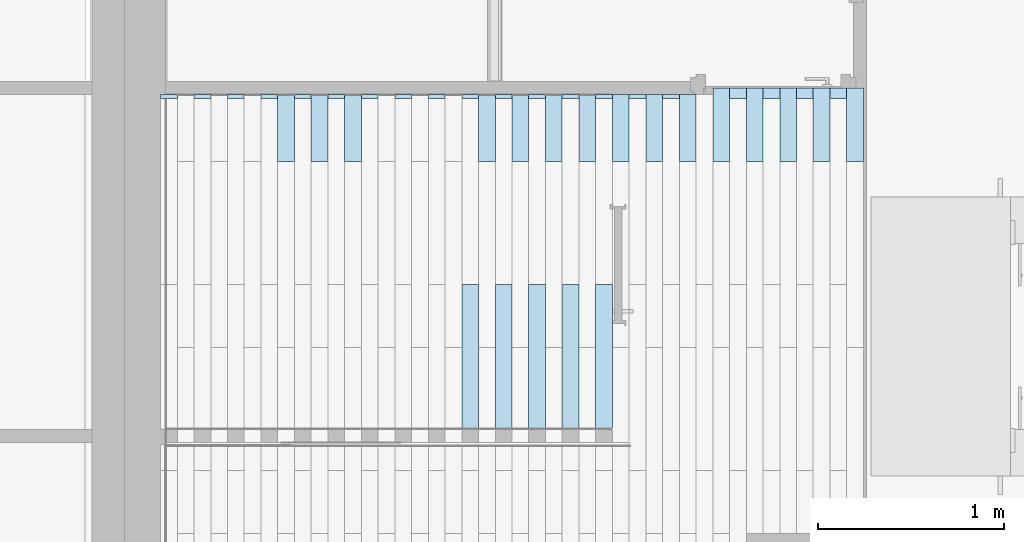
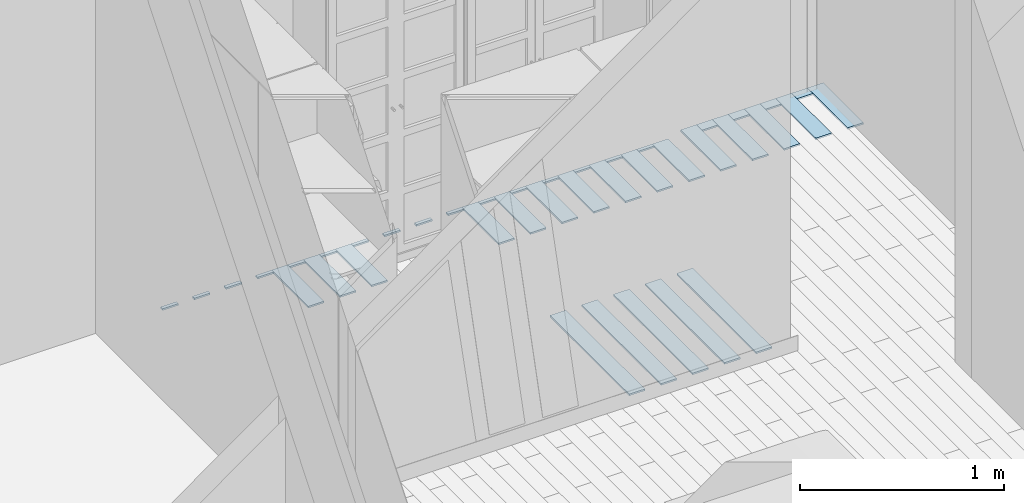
# One storey, part 7 of 61: 40 slabs.
"""IFC2X3 building model written with IfcOpenShell, lengths in metres."""

from ifc_helpers import new_model, entity, si_unit, converted_unit, derived_unit, direction, frame, frame_2d, origin, place, context, subcontext, project, spatial, rectangle, extrude, material, layer, layer_set, layer_usage, type_object, element, save


model = new_model("IFC2X3")

# Units and contexts
model_context = context("Model", 3, precision=1e-05, world=origin(), true_north=direction((6.12303176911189e-17, 1.0)))
body_context = subcontext(model_context, "Body", "Model", "MODEL_VIEW")
ifc_project = project(units=[si_unit("LENGTHUNIT", "METRE"), si_unit("AREAUNIT", "SQUARE_METRE"), si_unit("VOLUMEUNIT", "CUBIC_METRE"), converted_unit("PLANEANGLEUNIT", "DEGREE", entity("IfcRatioMeasure", 0.0174532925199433), si_unit("PLANEANGLEUNIT", "RADIAN"), dimensions=[0, 0, 0, 0, 0, 0, 0]), si_unit("MASSUNIT", "GRAM", prefix="KILO"), derived_unit("MASSDENSITYUNIT", [(si_unit("MASSUNIT", "GRAM", prefix="KILO"), 1), (si_unit("LENGTHUNIT", "METRE"), -3)]), si_unit("TIMEUNIT", "SECOND"), si_unit("FREQUENCYUNIT", "HERTZ"), si_unit("THERMODYNAMICTEMPERATUREUNIT", "DEGREE_CELSIUS"), derived_unit("THERMALTRANSMITTANCEUNIT", [(si_unit("MASSUNIT", "GRAM", prefix="KILO"), 1), (si_unit("THERMODYNAMICTEMPERATUREUNIT", "KELVIN"), -1), (si_unit("TIMEUNIT", "SECOND"), -3)]), derived_unit("VOLUMETRICFLOWRATEUNIT", [(si_unit("LENGTHUNIT", "METRE"), 3), (si_unit("TIMEUNIT", "SECOND"), -1)]), si_unit("ELECTRICCURRENTUNIT", "AMPERE"), si_unit("ELECTRICVOLTAGEUNIT", "VOLT"), si_unit("POWERUNIT", "WATT"), si_unit("FORCEUNIT", "NEWTON", prefix="KILO"), si_unit("ILLUMINANCEUNIT", "LUX"), si_unit("LUMINOUSFLUXUNIT", "LUMEN"), si_unit("LUMINOUSINTENSITYUNIT", "CANDELA"), derived_unit("USERDEFINED", [(si_unit("MASSUNIT", "GRAM", prefix="KILO"), -1), (si_unit("LENGTHUNIT", "METRE"), -2), (si_unit("TIMEUNIT", "SECOND"), 3), (si_unit("LUMINOUSFLUXUNIT", "LUMEN"), 1)]), derived_unit("LINEARVELOCITYUNIT", [(si_unit("LENGTHUNIT", "METRE"), 1), (si_unit("TIMEUNIT", "SECOND"), -1)]), si_unit("PRESSUREUNIT", "PASCAL"), derived_unit("USERDEFINED", [(si_unit("LENGTHUNIT", "METRE"), -2), (si_unit("MASSUNIT", "GRAM", prefix="KILO"), 1), (si_unit("TIMEUNIT", "SECOND"), -2)])], contexts=[model_context])

# Site, building, storey
site_placement = place(None, origin())
site = spatial("IfcSite", under=ifc_project, at=site_placement, Name="Surface", CompositionType="ELEMENT")
building_placement = place(site_placement, origin())
building = spatial("IfcBuilding", under=site, at=building_placement, CompositionType="ELEMENT")
storey_placement = place(building_placement, frame((0.0, 0.0, 2.82)))
storey = spatial("IfcBuildingStorey", under=building, at=storey_placement, Name="ETAGE", CompositionType="ELEMENT", Elevation=2.82)

# Slabs
ifc_material = material(Name="PARQUET BAMBOU")
ifc_layer = layer(ifc_material, 0.01)
ifc_layer_set = layer_set([ifc_layer], Name="Sol:LAME DE BAMBOU")
ifc_layer_usage_1 = layer_usage(ifc_layer_set, "AXIS3", "POSITIVE", 0.0)
slab_type_1 = type_object("IfcSlabType", Name="Sol:LAME DE BAMBOU", PredefinedType="FLOOR", material=ifc_layer_set)
slab_1_placement = place(storey_placement, origin())
element("IfcSlab", 1, at=slab_1_placement, inside=storey, type_object=slab_type_1, material=ifc_layer_usage_1, Name="Sol:LAME DE BAMBOU", ObjectType="Sol:LAME DE BAMBOU", PredefinedType="FLOOR", context=body_context, shape_type="SweptSolid", body=[
    extrude(rectangle(XDim=0.0200000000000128, YDim=0.0899999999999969, at=frame_2d((-8.66320903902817e-15, 8.66320903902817e-15), x_axis=(1.0, 0.0))), frame((86.466089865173, 86.5975239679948, 0.05), z_axis=(0.0, 0.0, -1.0), x_axis=(0.0, 1.0, 0.0)), (0.0, 0.0, 1.0), 0.00999999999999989),
])
ifc_layer_usage_2 = layer_usage(ifc_layer_set, "AXIS3", "POSITIVE", 0.0)
slab_type_2 = type_object("IfcSlabType", Name="Sol:LAME DE BAMBOU", PredefinedType="FLOOR", material=ifc_layer_set)
slab_2_placement = place(storey_placement, origin())
element("IfcSlab", 2, at=slab_2_placement, inside=storey, type_object=slab_type_2, material=ifc_layer_usage_2, Name="Sol:LAME DE BAMBOU", ObjectType="Sol:LAME DE BAMBOU", PredefinedType="FLOOR", context=body_context, shape_type="SweptSolid", body=[
    extrude(rectangle(XDim=0.360000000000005, YDim=0.0899999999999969, at=frame_2d((-8.67361737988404e-15, 8.66320903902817e-15), x_axis=(1.0, 0.0))), frame((86.556089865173, 86.4275239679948, 0.05), z_axis=(0.0, 0.0, -1.0), x_axis=(0.0, 1.0, 0.0)), (0.0, 0.0, 1.0), 0.00999999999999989),
])
ifc_layer_usage_3 = layer_usage(ifc_layer_set, "AXIS3", "POSITIVE", 0.0)
slab_type_3 = type_object("IfcSlabType", Name="Sol:LAME DE BAMBOU", PredefinedType="FLOOR", material=ifc_layer_set)
slab_3_placement = place(storey_placement, origin())
element("IfcSlab", 3, at=slab_3_placement, inside=storey, type_object=slab_type_3, material=ifc_layer_usage_3, Name="Sol:LAME DE BAMBOU", ObjectType="Sol:LAME DE BAMBOU", PredefinedType="FLOOR", context=body_context, shape_type="SweptSolid", body=[
    extrude(rectangle(XDim=0.394999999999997, YDim=0.0899999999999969, at=frame_2d((0.0, 8.66320903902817e-15), x_axis=(1.0, 0.0))), frame((86.916089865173, 86.4450239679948, 0.05), z_axis=(0.0, 0.0, -1.0), x_axis=(0.0, 1.0, 0.0)), (0.0, 0.0, 1.0), 0.00999999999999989),
])
ifc_layer_usage_4 = layer_usage(ifc_layer_set, "AXIS3", "POSITIVE", 0.0)
slab_type_4 = type_object("IfcSlabType", Name="Sol:LAME DE BAMBOU", PredefinedType="FLOOR", material=ifc_layer_set)
slab_4_placement = place(storey_placement, origin())
element("IfcSlab", 4, at=slab_4_placement, inside=storey, type_object=slab_type_4, material=ifc_layer_usage_4, Name="Sol:LAME DE BAMBOU", ObjectType="Sol:LAME DE BAMBOU", PredefinedType="FLOOR", context=body_context, shape_type="SweptSolid", body=[
    extrude(rectangle(XDim=0.360000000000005, YDim=0.0899999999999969, at=frame_2d((-8.67361737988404e-15, -8.66320903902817e-15), x_axis=(1.0, 0.0))), frame((86.736089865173, 86.4275239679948, 0.05), z_axis=(0.0, 0.0, -1.0), x_axis=(0.0, 1.0, 0.0)), (0.0, 0.0, 1.0), 0.00999999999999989),
])
ifc_layer_usage_5 = layer_usage(ifc_layer_set, "AXIS3", "POSITIVE", 0.0)
slab_type_5 = type_object("IfcSlabType", Name="Sol:LAME DE BAMBOU", PredefinedType="FLOOR", material=ifc_layer_set)
slab_5_placement = place(storey_placement, origin())
element("IfcSlab", 5, at=slab_5_placement, inside=storey, type_object=slab_type_5, material=ifc_layer_usage_5, Name="Sol:LAME DE BAMBOU", ObjectType="Sol:LAME DE BAMBOU", PredefinedType="FLOOR", context=body_context, shape_type="SweptSolid", body=[
    extrude(rectangle(XDim=0.0200000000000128, YDim=0.0899999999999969, at=frame_2d((-8.66320903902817e-15, 8.66320903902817e-15), x_axis=(1.0, 0.0))), frame((86.646089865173, 86.5975239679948, 0.05), z_axis=(0.0, 0.0, -1.0), x_axis=(0.0, 1.0, 0.0)), (0.0, 0.0, 1.0), 0.00999999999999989),
])
ifc_layer_usage_6 = layer_usage(ifc_layer_set, "AXIS3", "POSITIVE", 0.0)
slab_type_6 = type_object("IfcSlabType", Name="Sol:LAME DE BAMBOU", PredefinedType="FLOOR", material=ifc_layer_set)
slab_6_placement = place(storey_placement, origin())
element("IfcSlab", 6, at=slab_6_placement, inside=storey, type_object=slab_type_6, material=ifc_layer_usage_6, Name="Sol:LAME DE BAMBOU", ObjectType="Sol:LAME DE BAMBOU", PredefinedType="FLOOR", context=body_context, shape_type="SweptSolid", body=[
    extrude(rectangle(XDim=0.0550000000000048, YDim=0.0899999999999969, at=frame_2d((0.0, 8.66320903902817e-15), x_axis=(1.0, 0.0))), frame((87.006089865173, 86.6150239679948, 0.05), z_axis=(0.0, 0.0, -1.0), x_axis=(0.0, 1.0, 0.0)), (0.0, 0.0, 1.0), 0.00999999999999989),
])
ifc_layer_usage_7 = layer_usage(ifc_layer_set, "AXIS3", "POSITIVE", 0.0)
slab_type_7 = type_object("IfcSlabType", Name="Sol:LAME DE BAMBOU", PredefinedType="FLOOR", material=ifc_layer_set)
slab_7_placement = place(storey_placement, origin())
element("IfcSlab", 7, at=slab_7_placement, inside=storey, type_object=slab_type_7, material=ifc_layer_usage_7, Name="Sol:LAME DE BAMBOU", ObjectType="Sol:LAME DE BAMBOU", PredefinedType="FLOOR", context=body_context, shape_type="SweptSolid", body=[
    extrude(rectangle(XDim=0.394999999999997, YDim=0.0899999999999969, at=frame_2d((0.0, 8.66320903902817e-15), x_axis=(1.0, 0.0))), frame((87.0961607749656, 86.4450239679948, 0.05), z_axis=(0.0, 0.0, -1.0), x_axis=(0.0, 1.0, 0.0)), (0.0, 0.0, 1.0), 0.00999999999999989),
])
ifc_layer_usage_8 = layer_usage(ifc_layer_set, "AXIS3", "POSITIVE", 0.0)
slab_type_8 = type_object("IfcSlabType", Name="Sol:LAME DE BAMBOU", PredefinedType="FLOOR", material=ifc_layer_set)
slab_8_placement = place(storey_placement, origin())
element("IfcSlab", 8, at=slab_8_placement, inside=storey, type_object=slab_type_8, material=ifc_layer_usage_8, Name="Sol:LAME DE BAMBOU", ObjectType="Sol:LAME DE BAMBOU", PredefinedType="FLOOR", context=body_context, shape_type="SweptSolid", body=[
    extrude(rectangle(XDim=0.0550000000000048, YDim=0.0899999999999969, at=frame_2d((0.0, 8.66320903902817e-15), x_axis=(1.0, 0.0))), frame((87.1861607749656, 86.6150239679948, 0.05), z_axis=(0.0, 0.0, -1.0), x_axis=(0.0, 1.0, 0.0)), (0.0, 0.0, 1.0), 0.00999999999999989),
])
ifc_layer_usage_9 = layer_usage(ifc_layer_set, "AXIS3", "POSITIVE", 0.0)
slab_type_9 = type_object("IfcSlabType", Name="Sol:LAME DE BAMBOU", PredefinedType="FLOOR", material=ifc_layer_set)
slab_9_placement = place(storey_placement, origin())
element("IfcSlab", 9, at=slab_9_placement, inside=storey, type_object=slab_type_9, material=ifc_layer_usage_9, Name="Sol:LAME DE BAMBOU", ObjectType="Sol:LAME DE BAMBOU", PredefinedType="FLOOR", context=body_context, shape_type="SweptSolid", body=[
    extrude(rectangle(XDim=0.394999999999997, YDim=0.0899999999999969, at=frame_2d((0.0, 8.66320903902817e-15), x_axis=(1.0, 0.0))), frame((87.2761607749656, 86.4450239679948, 0.05), z_axis=(0.0, 0.0, -1.0), x_axis=(0.0, 1.0, 0.0)), (0.0, 0.0, 1.0), 0.00999999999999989),
])
ifc_layer_usage_10 = layer_usage(ifc_layer_set, "AXIS3", "POSITIVE", 0.0)
slab_type_10 = type_object("IfcSlabType", Name="Sol:LAME DE BAMBOU", PredefinedType="FLOOR", material=ifc_layer_set)
slab_10_placement = place(storey_placement, origin())
element("IfcSlab", 10, at=slab_10_placement, inside=storey, type_object=slab_type_10, material=ifc_layer_usage_10, Name="Sol:LAME DE BAMBOU", ObjectType="Sol:LAME DE BAMBOU", PredefinedType="FLOOR", context=body_context, shape_type="SweptSolid", body=[
    extrude(rectangle(XDim=0.0550000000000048, YDim=0.0899999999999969, at=frame_2d((0.0, -8.66320903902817e-15), x_axis=(1.0, 0.0))), frame((87.3661607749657, 86.6150239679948, 0.05), z_axis=(0.0, 0.0, -1.0), x_axis=(0.0, 1.0, 0.0)), (0.0, 0.0, 1.0), 0.00999999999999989),
])
ifc_layer_usage_11 = layer_usage(ifc_layer_set, "AXIS3", "POSITIVE", 0.0)
slab_type_11 = type_object("IfcSlabType", Name="Sol:LAME DE BAMBOU", PredefinedType="FLOOR", material=ifc_layer_set)
slab_11_placement = place(storey_placement, origin())
element("IfcSlab", 11, at=slab_11_placement, inside=storey, type_object=slab_type_11, material=ifc_layer_usage_11, Name="Sol:LAME DE BAMBOU", ObjectType="Sol:LAME DE BAMBOU", PredefinedType="FLOOR", context=body_context, shape_type="SweptSolid", body=[
    extrude(rectangle(XDim=0.394999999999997, YDim=0.0899999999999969, at=frame_2d((0.0, 8.66320903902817e-15), x_axis=(1.0, 0.0))), frame((87.4561607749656, 86.4450239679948, 0.05), z_axis=(0.0, 0.0, -1.0), x_axis=(0.0, 1.0, 0.0)), (0.0, 0.0, 1.0), 0.00999999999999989),
])
ifc_layer_usage_12 = layer_usage(ifc_layer_set, "AXIS3", "POSITIVE", 0.0)
slab_type_12 = type_object("IfcSlabType", Name="Sol:LAME DE BAMBOU", PredefinedType="FLOOR", material=ifc_layer_set)
slab_12_placement = place(storey_placement, origin())
element("IfcSlab", 12, at=slab_12_placement, inside=storey, type_object=slab_type_12, material=ifc_layer_usage_12, Name="Sol:LAME DE BAMBOU", ObjectType="Sol:LAME DE BAMBOU", PredefinedType="FLOOR", context=body_context, shape_type="SweptSolid", body=[
    extrude(rectangle(XDim=0.0550000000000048, YDim=0.0899999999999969, at=frame_2d((0.0, 8.66320903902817e-15), x_axis=(1.0, 0.0))), frame((87.5461607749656, 86.6150239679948, 0.05), z_axis=(0.0, 0.0, -1.0), x_axis=(0.0, 1.0, 0.0)), (0.0, 0.0, 1.0), 0.00999999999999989),
])
ifc_layer_usage_13 = layer_usage(ifc_layer_set, "AXIS3", "POSITIVE", 0.0)
slab_type_13 = type_object("IfcSlabType", Name="Sol:LAME DE BAMBOU", PredefinedType="FLOOR", material=ifc_layer_set)
slab_13_placement = place(storey_placement, origin())
element("IfcSlab", 13, at=slab_13_placement, inside=storey, type_object=slab_type_13, material=ifc_layer_usage_13, Name="Sol:LAME DE BAMBOU", ObjectType="Sol:LAME DE BAMBOU", PredefinedType="FLOOR", context=body_context, shape_type="SweptSolid", body=[
    extrude(rectangle(XDim=0.394999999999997, YDim=0.0899999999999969, at=frame_2d((0.0, 8.66320903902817e-15), x_axis=(1.0, 0.0))), frame((87.6361607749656, 86.4450239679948, 0.05), z_axis=(0.0, 0.0, -1.0), x_axis=(0.0, 1.0, 0.0)), (0.0, 0.0, 1.0), 0.00999999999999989),
])
ifc_layer_usage_14 = layer_usage(ifc_layer_set, "AXIS3", "POSITIVE", 0.0)
slab_type_14 = type_object("IfcSlabType", Name="Sol:LAME DE BAMBOU", PredefinedType="FLOOR", material=ifc_layer_set)
slab_14_placement = place(storey_placement, origin())
element("IfcSlab", 14, at=slab_14_placement, inside=storey, type_object=slab_type_14, material=ifc_layer_usage_14, Name="Sol:LAME DE BAMBOU", ObjectType="Sol:LAME DE BAMBOU", PredefinedType="FLOOR", context=body_context, shape_type="SweptSolid", body=[
    extrude(rectangle(XDim=0.360000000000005, YDim=0.0899999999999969, at=frame_2d((-8.67361737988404e-15, -8.66320903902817e-15), x_axis=(1.0, 0.0))), frame((86.376089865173, 86.4275239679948, 0.05), z_axis=(0.0, 0.0, -1.0), x_axis=(0.0, 1.0, 0.0)), (0.0, 0.0, 1.0), 0.00999999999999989),
])
ifc_layer_usage_15 = layer_usage(ifc_layer_set, "AXIS3", "POSITIVE", 0.0)
slab_type_15 = type_object("IfcSlabType", Name="Sol:LAME DE BAMBOU", PredefinedType="FLOOR", material=ifc_layer_set)
slab_15_placement = place(storey_placement, origin())
element("IfcSlab", 15, at=slab_15_placement, inside=storey, type_object=slab_type_15, material=ifc_layer_usage_15, Name="Sol:LAME DE BAMBOU", ObjectType="Sol:LAME DE BAMBOU", PredefinedType="FLOOR", context=body_context, shape_type="SweptSolid", body=[
    extrude(rectangle(XDim=0.779999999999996, YDim=0.0899999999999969, at=frame_2d((0.0, 8.66320903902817e-15), x_axis=(1.0, 0.0))), frame((86.286089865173, 85.1975239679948, 0.05), z_axis=(0.0, 0.0, -1.0), x_axis=(0.0, 1.0, 0.0)), (0.0, 0.0, 1.0), 0.00999999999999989),
])
ifc_layer_usage_16 = layer_usage(ifc_layer_set, "AXIS3", "POSITIVE", 0.0)
slab_type_16 = type_object("IfcSlabType", Name="Sol:LAME DE BAMBOU", PredefinedType="FLOOR", material=ifc_layer_set)
slab_16_placement = place(storey_placement, origin())
element("IfcSlab", 16, at=slab_16_placement, inside=storey, type_object=slab_type_16, material=ifc_layer_usage_16, Name="Sol:LAME DE BAMBOU", ObjectType="Sol:LAME DE BAMBOU", PredefinedType="FLOOR", context=body_context, shape_type="SweptSolid", body=[
    extrude(rectangle(XDim=0.0200000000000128, YDim=0.0899999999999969, at=frame_2d((-8.66320903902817e-15, 8.66320903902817e-15), x_axis=(1.0, 0.0))), frame((86.286089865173, 86.5975239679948, 0.05), z_axis=(0.0, 0.0, -1.0), x_axis=(0.0, 1.0, 0.0)), (0.0, 0.0, 1.0), 0.00999999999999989),
])
ifc_layer_usage_17 = layer_usage(ifc_layer_set, "AXIS3", "POSITIVE", 0.0)
slab_type_17 = type_object("IfcSlabType", Name="Sol:LAME DE BAMBOU", PredefinedType="FLOOR", material=ifc_layer_set)
slab_17_placement = place(storey_placement, origin())
element("IfcSlab", 17, at=slab_17_placement, inside=storey, type_object=slab_type_17, material=ifc_layer_usage_17, Name="Sol:LAME DE BAMBOU", ObjectType="Sol:LAME DE BAMBOU", PredefinedType="FLOOR", context=body_context, shape_type="SweptSolid", body=[
    extrude(rectangle(XDim=0.360000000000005, YDim=0.0899999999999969, at=frame_2d((-8.67361737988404e-15, 8.66320903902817e-15), x_axis=(1.0, 0.0))), frame((86.1960898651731, 86.4275239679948, 0.05), z_axis=(0.0, 0.0, -1.0), x_axis=(0.0, 1.0, 0.0)), (0.0, 0.0, 1.0), 0.00999999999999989),
])
ifc_layer_usage_18 = layer_usage(ifc_layer_set, "AXIS3", "POSITIVE", 0.0)
slab_type_18 = type_object("IfcSlabType", Name="Sol:LAME DE BAMBOU", PredefinedType="FLOOR", material=ifc_layer_set)
slab_18_placement = place(storey_placement, origin())
element("IfcSlab", 18, at=slab_18_placement, inside=storey, type_object=slab_type_18, material=ifc_layer_usage_18, Name="Sol:LAME DE BAMBOU", ObjectType="Sol:LAME DE BAMBOU", PredefinedType="FLOOR", context=body_context, shape_type="SweptSolid", body=[
    extrude(rectangle(XDim=0.779999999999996, YDim=0.0899999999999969, at=frame_2d((0.0, 8.66320903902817e-15), x_axis=(1.0, 0.0))), frame((86.106089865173, 85.1975239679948, 0.05), z_axis=(0.0, 0.0, -1.0), x_axis=(0.0, 1.0, 0.0)), (0.0, 0.0, 1.0), 0.00999999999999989),
])
ifc_layer_usage_19 = layer_usage(ifc_layer_set, "AXIS3", "POSITIVE", 0.0)
slab_type_19 = type_object("IfcSlabType", Name="Sol:LAME DE BAMBOU", PredefinedType="FLOOR", material=ifc_layer_set)
slab_19_placement = place(storey_placement, origin())
element("IfcSlab", 19, at=slab_19_placement, inside=storey, type_object=slab_type_19, material=ifc_layer_usage_19, Name="Sol:LAME DE BAMBOU", ObjectType="Sol:LAME DE BAMBOU", PredefinedType="FLOOR", context=body_context, shape_type="SweptSolid", body=[
    extrude(rectangle(XDim=0.0200000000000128, YDim=0.0899999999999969, at=frame_2d((-8.66320903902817e-15, 8.66320903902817e-15), x_axis=(1.0, 0.0))), frame((86.106089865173, 86.5975239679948, 0.05), z_axis=(0.0, 0.0, -1.0), x_axis=(0.0, 1.0, 0.0)), (0.0, 0.0, 1.0), 0.00999999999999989),
])
ifc_layer_usage_20 = layer_usage(ifc_layer_set, "AXIS3", "POSITIVE", 0.0)
slab_type_20 = type_object("IfcSlabType", Name="Sol:LAME DE BAMBOU", PredefinedType="FLOOR", material=ifc_layer_set)
slab_20_placement = place(storey_placement, origin())
element("IfcSlab", 20, at=slab_20_placement, inside=storey, type_object=slab_type_20, material=ifc_layer_usage_20, Name="Sol:LAME DE BAMBOU", ObjectType="Sol:LAME DE BAMBOU", PredefinedType="FLOOR", context=body_context, shape_type="SweptSolid", body=[
    extrude(rectangle(XDim=0.360000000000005, YDim=0.0899999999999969, at=frame_2d((-8.67361737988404e-15, 8.66320903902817e-15), x_axis=(1.0, 0.0))), frame((86.0160898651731, 86.4275239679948, 0.05), z_axis=(0.0, 0.0, -1.0), x_axis=(0.0, 1.0, 0.0)), (0.0, 0.0, 1.0), 0.00999999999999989),
])
ifc_layer_usage_21 = layer_usage(ifc_layer_set, "AXIS3", "POSITIVE", 0.0)
slab_type_21 = type_object("IfcSlabType", Name="Sol:LAME DE BAMBOU", PredefinedType="FLOOR", material=ifc_layer_set)
slab_21_placement = place(storey_placement, origin())
element("IfcSlab", 21, at=slab_21_placement, inside=storey, type_object=slab_type_21, material=ifc_layer_usage_21, Name="Sol:LAME DE BAMBOU", ObjectType="Sol:LAME DE BAMBOU", PredefinedType="FLOOR", context=body_context, shape_type="SweptSolid", body=[
    extrude(rectangle(XDim=0.779999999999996, YDim=0.0899999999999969, at=frame_2d((0.0, 8.66320903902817e-15), x_axis=(1.0, 0.0))), frame((85.926089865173, 85.1975239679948, 0.05), z_axis=(0.0, 0.0, -1.0), x_axis=(0.0, 1.0, 0.0)), (0.0, 0.0, 1.0), 0.00999999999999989),
])
ifc_layer_usage_22 = layer_usage(ifc_layer_set, "AXIS3", "POSITIVE", 0.0)
slab_type_22 = type_object("IfcSlabType", Name="Sol:LAME DE BAMBOU", PredefinedType="FLOOR", material=ifc_layer_set)
slab_22_placement = place(storey_placement, origin())
element("IfcSlab", 22, at=slab_22_placement, inside=storey, type_object=slab_type_22, material=ifc_layer_usage_22, Name="Sol:LAME DE BAMBOU", ObjectType="Sol:LAME DE BAMBOU", PredefinedType="FLOOR", context=body_context, shape_type="SweptSolid", body=[
    extrude(rectangle(XDim=0.0200000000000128, YDim=0.0899999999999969, at=frame_2d((-8.66320903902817e-15, 8.66320903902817e-15), x_axis=(1.0, 0.0))), frame((85.926089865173, 86.5975239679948, 0.05), z_axis=(0.0, 0.0, -1.0), x_axis=(0.0, 1.0, 0.0)), (0.0, 0.0, 1.0), 0.00999999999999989),
])
ifc_layer_usage_23 = layer_usage(ifc_layer_set, "AXIS3", "POSITIVE", 0.0)
slab_type_23 = type_object("IfcSlabType", Name="Sol:LAME DE BAMBOU", PredefinedType="FLOOR", material=ifc_layer_set)
slab_23_placement = place(storey_placement, origin())
element("IfcSlab", 23, at=slab_23_placement, inside=storey, type_object=slab_type_23, material=ifc_layer_usage_23, Name="Sol:LAME DE BAMBOU", ObjectType="Sol:LAME DE BAMBOU", PredefinedType="FLOOR", context=body_context, shape_type="SweptSolid", body=[
    extrude(rectangle(XDim=0.360000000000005, YDim=0.0899999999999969, at=frame_2d((-8.67361737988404e-15, 8.66320903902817e-15), x_axis=(1.0, 0.0))), frame((85.8360898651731, 86.4275239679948, 0.05), z_axis=(0.0, 0.0, -1.0), x_axis=(0.0, 1.0, 0.0)), (0.0, 0.0, 1.0), 0.00999999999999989),
])
ifc_layer_usage_24 = layer_usage(ifc_layer_set, "AXIS3", "POSITIVE", 0.0)
slab_type_24 = type_object("IfcSlabType", Name="Sol:LAME DE BAMBOU", PredefinedType="FLOOR", material=ifc_layer_set)
slab_24_placement = place(storey_placement, origin())
element("IfcSlab", 24, at=slab_24_placement, inside=storey, type_object=slab_type_24, material=ifc_layer_usage_24, Name="Sol:LAME DE BAMBOU", ObjectType="Sol:LAME DE BAMBOU", PredefinedType="FLOOR", context=body_context, shape_type="SweptSolid", body=[
    extrude(rectangle(XDim=0.779999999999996, YDim=0.0899999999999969, at=frame_2d((0.0, 8.66320903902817e-15), x_axis=(1.0, 0.0))), frame((85.746089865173, 85.1975239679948, 0.05), z_axis=(0.0, 0.0, -1.0), x_axis=(0.0, 1.0, 0.0)), (0.0, 0.0, 1.0), 0.00999999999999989),
])
ifc_layer_usage_25 = layer_usage(ifc_layer_set, "AXIS3", "POSITIVE", 0.0)
slab_type_25 = type_object("IfcSlabType", Name="Sol:LAME DE BAMBOU", PredefinedType="FLOOR", material=ifc_layer_set)
slab_25_placement = place(storey_placement, origin())
element("IfcSlab", 25, at=slab_25_placement, inside=storey, type_object=slab_type_25, material=ifc_layer_usage_25, Name="Sol:LAME DE BAMBOU", ObjectType="Sol:LAME DE BAMBOU", PredefinedType="FLOOR", context=body_context, shape_type="SweptSolid", body=[
    extrude(rectangle(XDim=0.0200000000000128, YDim=0.0899999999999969, at=frame_2d((-8.66320903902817e-15, 8.66320903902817e-15), x_axis=(1.0, 0.0))), frame((85.746089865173, 86.5975239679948, 0.05), z_axis=(0.0, 0.0, -1.0), x_axis=(0.0, 1.0, 0.0)), (0.0, 0.0, 1.0), 0.00999999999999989),
])
ifc_layer_usage_26 = layer_usage(ifc_layer_set, "AXIS3", "POSITIVE", 0.0)
slab_type_26 = type_object("IfcSlabType", Name="Sol:LAME DE BAMBOU", PredefinedType="FLOOR", material=ifc_layer_set)
slab_26_placement = place(storey_placement, origin())
element("IfcSlab", 26, at=slab_26_placement, inside=storey, type_object=slab_type_26, material=ifc_layer_usage_26, Name="Sol:LAME DE BAMBOU", ObjectType="Sol:LAME DE BAMBOU", PredefinedType="FLOOR", context=body_context, shape_type="SweptSolid", body=[
    extrude(rectangle(XDim=0.360000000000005, YDim=0.0899999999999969, at=frame_2d((-8.67361737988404e-15, 8.66320903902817e-15), x_axis=(1.0, 0.0))), frame((85.6560898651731, 86.4275239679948, 0.05), z_axis=(0.0, 0.0, -1.0), x_axis=(0.0, 1.0, 0.0)), (0.0, 0.0, 1.0), 0.00999999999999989),
])
ifc_layer_usage_27 = layer_usage(ifc_layer_set, "AXIS3", "POSITIVE", 0.0)
slab_type_27 = type_object("IfcSlabType", Name="Sol:LAME DE BAMBOU", PredefinedType="FLOOR", material=ifc_layer_set)
slab_27_placement = place(storey_placement, origin())
element("IfcSlab", 27, at=slab_27_placement, inside=storey, type_object=slab_type_27, material=ifc_layer_usage_27, Name="Sol:LAME DE BAMBOU", ObjectType="Sol:LAME DE BAMBOU", PredefinedType="FLOOR", context=body_context, shape_type="SweptSolid", body=[
    extrude(rectangle(XDim=0.779999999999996, YDim=0.0899999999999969, at=frame_2d((0.0, 8.66320903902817e-15), x_axis=(1.0, 0.0))), frame((85.566089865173, 85.1975239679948, 0.05), z_axis=(0.0, 0.0, -1.0), x_axis=(0.0, 1.0, 0.0)), (0.0, 0.0, 1.0), 0.00999999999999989),
])
ifc_layer_usage_28 = layer_usage(ifc_layer_set, "AXIS3", "POSITIVE", 0.0)
slab_type_28 = type_object("IfcSlabType", Name="Sol:LAME DE BAMBOU", PredefinedType="FLOOR", material=ifc_layer_set)
slab_28_placement = place(storey_placement, origin())
element("IfcSlab", 28, at=slab_28_placement, inside=storey, type_object=slab_type_28, material=ifc_layer_usage_28, Name="Sol:LAME DE BAMBOU", ObjectType="Sol:LAME DE BAMBOU", PredefinedType="FLOOR", context=body_context, shape_type="SweptSolid", body=[
    extrude(rectangle(XDim=0.0200000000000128, YDim=0.0899999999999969, at=frame_2d((-8.66320903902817e-15, 8.66320903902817e-15), x_axis=(1.0, 0.0))), frame((85.566089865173, 86.5975239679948, 0.05), z_axis=(0.0, 0.0, -1.0), x_axis=(0.0, 1.0, 0.0)), (0.0, 0.0, 1.0), 0.00999999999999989),
])
ifc_layer_usage_29 = layer_usage(ifc_layer_set, "AXIS3", "POSITIVE", 0.0)
slab_type_29 = type_object("IfcSlabType", Name="Sol:LAME DE BAMBOU", PredefinedType="FLOOR", material=ifc_layer_set)
slab_29_placement = place(storey_placement, origin())
element("IfcSlab", 29, at=slab_29_placement, inside=storey, type_object=slab_type_29, material=ifc_layer_usage_29, Name="Sol:LAME DE BAMBOU", ObjectType="Sol:LAME DE BAMBOU", PredefinedType="FLOOR", context=body_context, shape_type="SweptSolid", body=[
    extrude(rectangle(XDim=0.0200000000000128, YDim=0.0899999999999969, at=frame_2d((-8.66320903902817e-15, 8.66320903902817e-15), x_axis=(1.0, 0.0))), frame((85.386089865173, 86.5975239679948, 0.05), z_axis=(0.0, 0.0, -1.0), x_axis=(0.0, 1.0, 0.0)), (0.0, 0.0, 1.0), 0.00999999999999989),
])
ifc_layer_usage_30 = layer_usage(ifc_layer_set, "AXIS3", "POSITIVE", 0.0)
slab_type_30 = type_object("IfcSlabType", Name="Sol:LAME DE BAMBOU", PredefinedType="FLOOR", material=ifc_layer_set)
slab_30_placement = place(storey_placement, origin())
element("IfcSlab", 30, at=slab_30_placement, inside=storey, type_object=slab_type_30, material=ifc_layer_usage_30, Name="Sol:LAME DE BAMBOU", ObjectType="Sol:LAME DE BAMBOU", PredefinedType="FLOOR", context=body_context, shape_type="SweptSolid", body=[
    extrude(rectangle(XDim=0.0200000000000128, YDim=0.0899999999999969, at=frame_2d((-8.66320903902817e-15, 8.66320903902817e-15), x_axis=(1.0, 0.0))), frame((85.206089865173, 86.5975239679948, 0.05), z_axis=(0.0, 0.0, -1.0), x_axis=(0.0, 1.0, 0.0)), (0.0, 0.0, 1.0), 0.00999999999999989),
])
ifc_layer_usage_31 = layer_usage(ifc_layer_set, "AXIS3", "POSITIVE", 0.0)
slab_type_31 = type_object("IfcSlabType", Name="Sol:LAME DE BAMBOU", PredefinedType="FLOOR", material=ifc_layer_set)
slab_31_placement = place(storey_placement, origin())
element("IfcSlab", 31, at=slab_31_placement, inside=storey, type_object=slab_type_31, material=ifc_layer_usage_31, Name="Sol:LAME DE BAMBOU", ObjectType="Sol:LAME DE BAMBOU", PredefinedType="FLOOR", context=body_context, shape_type="SweptSolid", body=[
    extrude(rectangle(XDim=0.0200000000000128, YDim=0.0899999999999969, at=frame_2d((-8.66320903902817e-15, 8.66320903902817e-15), x_axis=(1.0, 0.0))), frame((85.0260898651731, 86.5975239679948, 0.05), z_axis=(0.0, 0.0, -1.0), x_axis=(0.0, 1.0, 0.0)), (0.0, 0.0, 1.0), 0.00999999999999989),
])
ifc_layer_usage_32 = layer_usage(ifc_layer_set, "AXIS3", "POSITIVE", 0.0)
slab_type_32 = type_object("IfcSlabType", Name="Sol:LAME DE BAMBOU", PredefinedType="FLOOR", material=ifc_layer_set)
slab_32_placement = place(storey_placement, origin())
element("IfcSlab", 32, at=slab_32_placement, inside=storey, type_object=slab_type_32, material=ifc_layer_usage_32, Name="Sol:LAME DE BAMBOU", ObjectType="Sol:LAME DE BAMBOU", PredefinedType="FLOOR", context=body_context, shape_type="SweptSolid", body=[
    extrude(rectangle(XDim=0.360000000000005, YDim=0.0899999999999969, at=frame_2d((-8.67361737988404e-15, 8.66320903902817e-15), x_axis=(1.0, 0.0))), frame((84.9360898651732, 86.4275239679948, 0.05), z_axis=(0.0, 0.0, -1.0), x_axis=(0.0, 1.0, 0.0)), (0.0, 0.0, 1.0), 0.00999999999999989),
])
ifc_layer_usage_33 = layer_usage(ifc_layer_set, "AXIS3", "POSITIVE", 0.0)
slab_type_33 = type_object("IfcSlabType", Name="Sol:LAME DE BAMBOU", PredefinedType="FLOOR", material=ifc_layer_set)
slab_33_placement = place(storey_placement, origin())
element("IfcSlab", 33, at=slab_33_placement, inside=storey, type_object=slab_type_33, material=ifc_layer_usage_33, Name="Sol:LAME DE BAMBOU", ObjectType="Sol:LAME DE BAMBOU", PredefinedType="FLOOR", context=body_context, shape_type="SweptSolid", body=[
    extrude(rectangle(XDim=0.0200000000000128, YDim=0.0899999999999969, at=frame_2d((-8.66320903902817e-15, -8.66320903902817e-15), x_axis=(1.0, 0.0))), frame((84.8460898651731, 86.5975239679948, 0.05), z_axis=(0.0, 0.0, -1.0), x_axis=(0.0, 1.0, 0.0)), (0.0, 0.0, 1.0), 0.00999999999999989),
])
ifc_layer_usage_34 = layer_usage(ifc_layer_set, "AXIS3", "POSITIVE", 0.0)
slab_type_34 = type_object("IfcSlabType", Name="Sol:LAME DE BAMBOU", PredefinedType="FLOOR", material=ifc_layer_set)
slab_34_placement = place(storey_placement, origin())
element("IfcSlab", 34, at=slab_34_placement, inside=storey, type_object=slab_type_34, material=ifc_layer_usage_34, Name="Sol:LAME DE BAMBOU", ObjectType="Sol:LAME DE BAMBOU", PredefinedType="FLOOR", context=body_context, shape_type="SweptSolid", body=[
    extrude(rectangle(XDim=0.360000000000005, YDim=0.0899999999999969, at=frame_2d((-8.67361737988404e-15, -8.66320903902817e-15), x_axis=(1.0, 0.0))), frame((84.7560898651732, 86.4275239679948, 0.05), z_axis=(0.0, 0.0, -1.0), x_axis=(0.0, 1.0, 0.0)), (0.0, 0.0, 1.0), 0.00999999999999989),
])
ifc_layer_usage_35 = layer_usage(ifc_layer_set, "AXIS3", "POSITIVE", 0.0)
slab_type_35 = type_object("IfcSlabType", Name="Sol:LAME DE BAMBOU", PredefinedType="FLOOR", material=ifc_layer_set)
slab_35_placement = place(storey_placement, origin())
element("IfcSlab", 35, at=slab_35_placement, inside=storey, type_object=slab_type_35, material=ifc_layer_usage_35, Name="Sol:LAME DE BAMBOU", ObjectType="Sol:LAME DE BAMBOU", PredefinedType="FLOOR", context=body_context, shape_type="SweptSolid", body=[
    extrude(rectangle(XDim=0.0200000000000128, YDim=0.0899999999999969, at=frame_2d((-8.66320903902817e-15, 8.66320903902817e-15), x_axis=(1.0, 0.0))), frame((84.6660898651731, 86.5975239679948, 0.05), z_axis=(0.0, 0.0, -1.0), x_axis=(0.0, 1.0, 0.0)), (0.0, 0.0, 1.0), 0.00999999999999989),
])
ifc_layer_usage_36 = layer_usage(ifc_layer_set, "AXIS3", "POSITIVE", 0.0)
slab_type_36 = type_object("IfcSlabType", Name="Sol:LAME DE BAMBOU", PredefinedType="FLOOR", material=ifc_layer_set)
slab_36_placement = place(storey_placement, origin())
element("IfcSlab", 36, at=slab_36_placement, inside=storey, type_object=slab_type_36, material=ifc_layer_usage_36, Name="Sol:LAME DE BAMBOU", ObjectType="Sol:LAME DE BAMBOU", PredefinedType="FLOOR", context=body_context, shape_type="SweptSolid", body=[
    extrude(rectangle(XDim=0.360000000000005, YDim=0.0899999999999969, at=frame_2d((-8.67361737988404e-15, 8.66320903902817e-15), x_axis=(1.0, 0.0))), frame((84.5760898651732, 86.4275239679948, 0.05), z_axis=(0.0, 0.0, -1.0), x_axis=(0.0, 1.0, 0.0)), (0.0, 0.0, 1.0), 0.00999999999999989),
])
ifc_layer_usage_37 = layer_usage(ifc_layer_set, "AXIS3", "POSITIVE", 0.0)
slab_type_37 = type_object("IfcSlabType", Name="Sol:LAME DE BAMBOU", PredefinedType="FLOOR", material=ifc_layer_set)
slab_37_placement = place(storey_placement, origin())
element("IfcSlab", 37, at=slab_37_placement, inside=storey, type_object=slab_type_37, material=ifc_layer_usage_37, Name="Sol:LAME DE BAMBOU", ObjectType="Sol:LAME DE BAMBOU", PredefinedType="FLOOR", context=body_context, shape_type="SweptSolid", body=[
    extrude(rectangle(XDim=0.0200000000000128, YDim=0.0899999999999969, at=frame_2d((-8.66320903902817e-15, -8.66320903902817e-15), x_axis=(1.0, 0.0))), frame((84.4860898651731, 86.5975239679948, 0.05), z_axis=(0.0, 0.0, -1.0), x_axis=(0.0, 1.0, 0.0)), (0.0, 0.0, 1.0), 0.00999999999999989),
])
ifc_layer_usage_38 = layer_usage(ifc_layer_set, "AXIS3", "POSITIVE", 0.0)
slab_type_38 = type_object("IfcSlabType", Name="Sol:LAME DE BAMBOU", PredefinedType="FLOOR", material=ifc_layer_set)
slab_38_placement = place(storey_placement, origin())
element("IfcSlab", 38, at=slab_38_placement, inside=storey, type_object=slab_type_38, material=ifc_layer_usage_38, Name="Sol:LAME DE BAMBOU", ObjectType="Sol:LAME DE BAMBOU", PredefinedType="FLOOR", context=body_context, shape_type="SweptSolid", body=[
    extrude(rectangle(XDim=0.0200000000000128, YDim=0.0899999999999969, at=frame_2d((-8.66320903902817e-15, 8.66320903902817e-15), x_axis=(1.0, 0.0))), frame((84.3060898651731, 86.5975239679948, 0.05), z_axis=(0.0, 0.0, -1.0), x_axis=(0.0, 1.0, 0.0)), (0.0, 0.0, 1.0), 0.00999999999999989),
])
ifc_layer_usage_39 = layer_usage(ifc_layer_set, "AXIS3", "POSITIVE", 0.0)
slab_type_39 = type_object("IfcSlabType", Name="Sol:LAME DE BAMBOU", PredefinedType="FLOOR", material=ifc_layer_set)
slab_39_placement = place(storey_placement, origin())
element("IfcSlab", 39, at=slab_39_placement, inside=storey, type_object=slab_type_39, material=ifc_layer_usage_39, Name="Sol:LAME DE BAMBOU", ObjectType="Sol:LAME DE BAMBOU", PredefinedType="FLOOR", context=body_context, shape_type="SweptSolid", body=[
    extrude(rectangle(XDim=0.0200000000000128, YDim=0.0899999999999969, at=frame_2d((-8.66320903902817e-15, -8.66320903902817e-15), x_axis=(1.0, 0.0))), frame((84.1260898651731, 86.5975239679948, 0.05), z_axis=(0.0, 0.0, -1.0), x_axis=(0.0, 1.0, 0.0)), (0.0, 0.0, 1.0), 0.00999999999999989),
])
ifc_layer_usage_40 = layer_usage(ifc_layer_set, "AXIS3", "POSITIVE", 0.0)
slab_type_40 = type_object("IfcSlabType", Name="Sol:LAME DE BAMBOU", PredefinedType="FLOOR", material=ifc_layer_set)
slab_40_placement = place(storey_placement, origin())
element("IfcSlab", 40, at=slab_40_placement, inside=storey, type_object=slab_type_40, material=ifc_layer_usage_40, Name="Sol:LAME DE BAMBOU", ObjectType="Sol:LAME DE BAMBOU", PredefinedType="FLOOR", context=body_context, shape_type="SweptSolid", body=[
    extrude(rectangle(XDim=0.0200000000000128, YDim=0.0899999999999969, at=frame_2d((-8.66320903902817e-15, 8.66320903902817e-15), x_axis=(1.0, 0.0))), frame((83.9460898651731, 86.5975239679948, 0.05), z_axis=(0.0, 0.0, -1.0), x_axis=(0.0, 1.0, 0.0)), (0.0, 0.0, 1.0), 0.00999999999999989),
])

save(model, "model.ifc")
